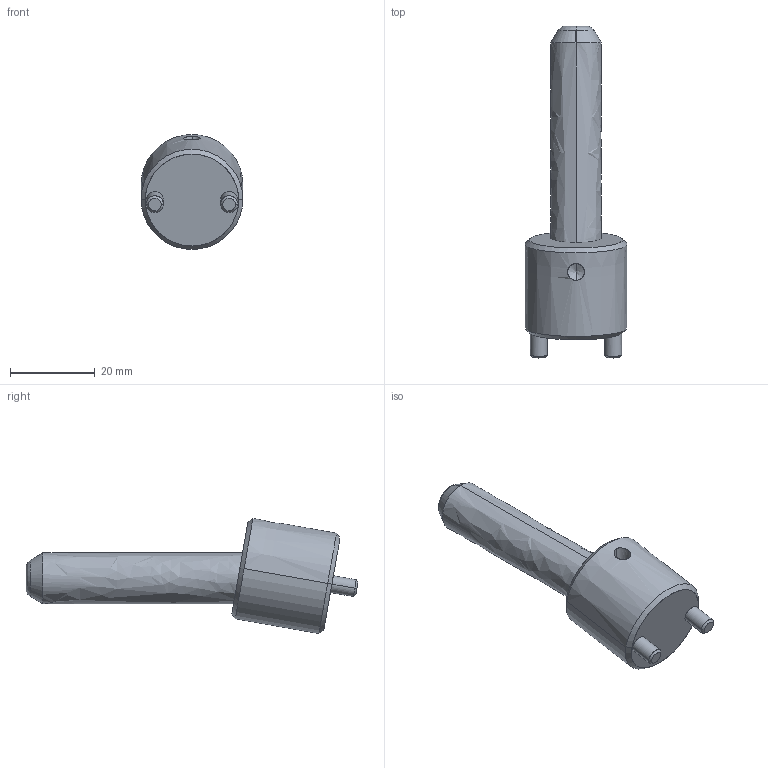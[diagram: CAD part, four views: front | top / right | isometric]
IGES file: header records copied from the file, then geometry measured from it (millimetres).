
Start section: START RECORD GO HERE.
Global section: file name: CI1012050.igs; native system: DASSAULT SYSTEMES CATIA V5 R20 - www.3ds.com; preprocessor: CATIA Version 5 Release 20 ; author: r.borello; organization: CFTORINO; date: 20190620.161058; units: millimetre
Bounding box: 24 x 78.27 x 27.11 mm (x, y, z)
Surface area: 6087.9 mm2 (no closed solid volume)
Topology: 0 solids, 0 shells, 39 faces, 162 edges, 160 vertices
Faces by surface type: revolution 32, plane 7
